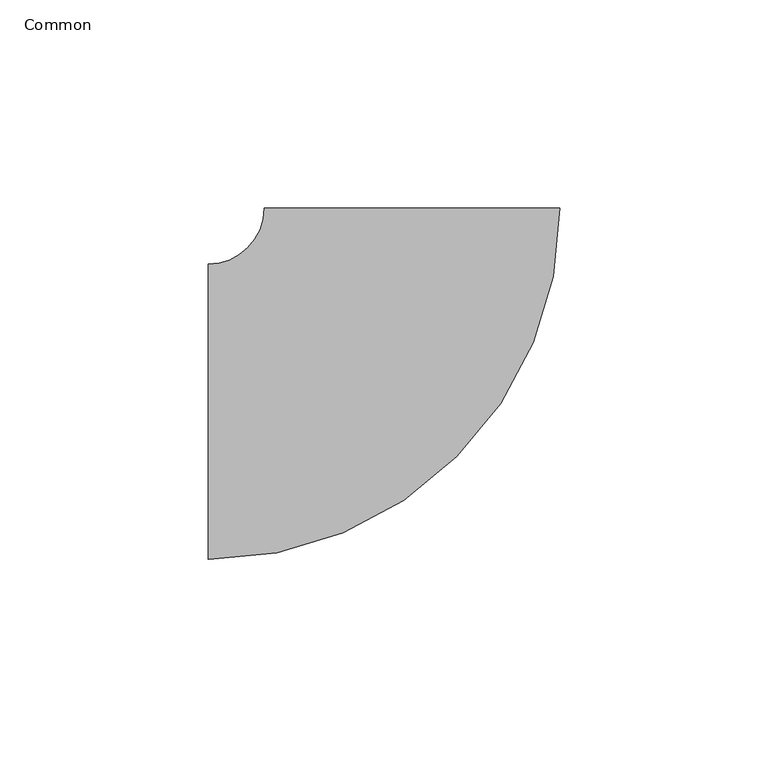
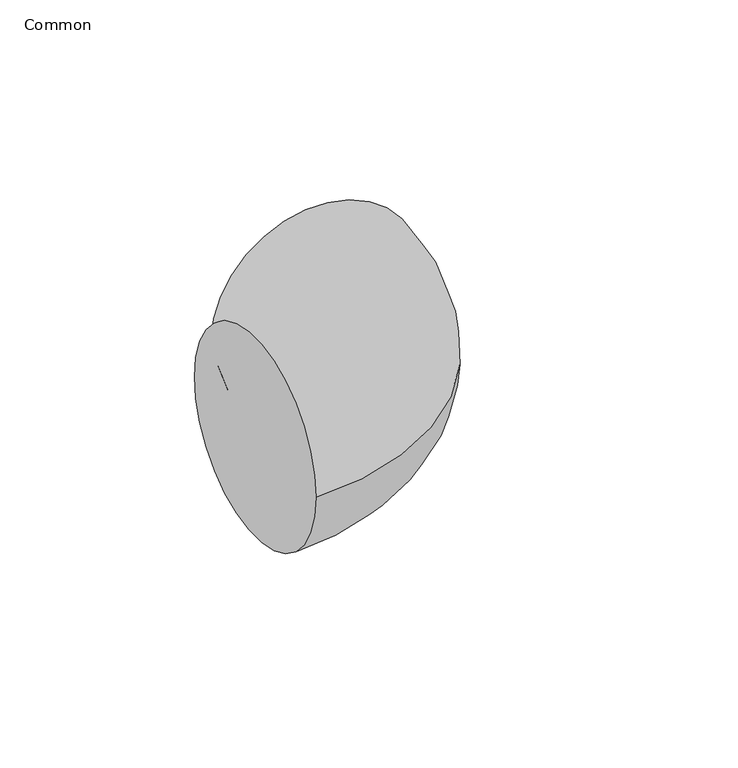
"""IFC4 building model written with IfcOpenShell, lengths in millimetres: pipe fitting geometry, 011_エルボ : Common."""

from ifc_helpers import new_model, si_unit, point, frame, origin, place, context, project, spatial, circle_curve, ellipse_curve, trimmed, source, transform, mapped, element, save
from ifc_brep_helpers import plane_surface, revolved_surface, advanced_brep


def common_969e8d41(model_context):
    return source(origin(), model_context, "Body", "AdvancedBrep", [
        advanced_brep(
        [(-49.0, -35.5, 0.0), (-49.0, 35.5, 0.0), (35.5, 49.0, 0.0), (-35.5, 49.0, 0.0)],
        [
            (0, 1, circle_curve(frame((-49.0, 0.0, 0.0), z_axis=(-1.0, 0.0, 0.0), x_axis=(0.0, 1.0, 0.0)), 35.5)),
            (1, 0, circle_curve(frame((-49.0, 0.0, 0.0), z_axis=(-1.0, 0.0, 0.0), x_axis=(0.0, 1.0, 0.0)), 35.5)),
            (2, 3, circle_curve(frame((0.0, 49.0, 0.0), z_axis=(0.0, 1.0, 0.0), x_axis=(-1.0, 0.0, 0.0)), 35.5)),
            (3, 2, circle_curve(frame((0.0, 49.0, 0.0), z_axis=(0.0, 1.0, 0.0), x_axis=(-1.0, 0.0, 0.0)), 35.5)),
            (3, 1, circle_curve(frame((-49.0, 49.0, 0.0), z_axis=(0.0, 0.0, -1.0), x_axis=(0.0, -1.0, 0.0)), 13.5)),
            (0, 2, circle_curve(frame((-49.0, 49.0, 0.0), z_axis=(0.0, 0.0, 1.0), x_axis=(0.0, -1.0, 0.0)), 84.5)),
        ],
        [
            plane_surface(frame((-49.0, 0.0, 0.0), z_axis=(-1.0, 0.0, 0.0), x_axis=(0.0, 0.0, 1.0))),
            plane_surface(frame((0.0, 49.0, 0.0), z_axis=(0.0, 1.0, 0.0), x_axis=(0.0, 0.0, 1.0))),
            revolved_surface(trimmed(ellipse_curve(frame((-49.0, 0.0, 0.0), z_axis=(-1.0, 0.0, 0.0), x_axis=(0.0, 1.0, 0.0)), 35.5, 35.5), [point((-49.0, -35.5, 0.0))], [point((-49.0, 35.5, 0.0))], True, "CARTESIAN"), (-49.0, 49.0, 0.0), (0.0, 0.0, 1.0)),
            revolved_surface(trimmed(ellipse_curve(frame((-49.0, 0.0, 0.0), z_axis=(-1.0, 0.0, 0.0), x_axis=(0.0, 1.0, 0.0)), 35.5, 35.5), [point((-49.0, 35.5, 0.0))], [point((-49.0, -35.5, 0.0))], True, "CARTESIAN"), (-49.0, 49.0, 0.0), (0.0, 0.0, 1.0)),
        ],
        [
            (0, [[1, 2]]),
            (1, [[3, 4]]),
            (2, [[5, -1, 6, -4]]),
            (3, [[-6, -2, -5, -3]]),
        ],
    ),
    ])


if __name__ == "__main__":
    model = new_model("IFC4")
    model_context = context("Model", 3, world=origin())
    ifc_project = project(units=[si_unit("LENGTHUNIT", "METRE", prefix="MILLI")], contexts=[model_context])
    site = spatial("IfcSite", under=ifc_project)
    building = spatial("IfcBuilding", under=site)
    placement = place(None, origin())
    common_shape = common_969e8d41(model_context)
    element("IfcPipeFitting", 1, ObjectType="011_エルボ : Common", at=placement, inside=building, context=model_context, shape_type="MappedRepresentation", body=[
        mapped(common_shape, transform((0.0, 0.0, 0.0), x_axis=(1.0, 0.0, 0.0), y_axis=(0.0, 1.0, 0.0), z_axis=(0.0, 0.0, 1.0))),
    ])
    save(model, "model.ifc")
